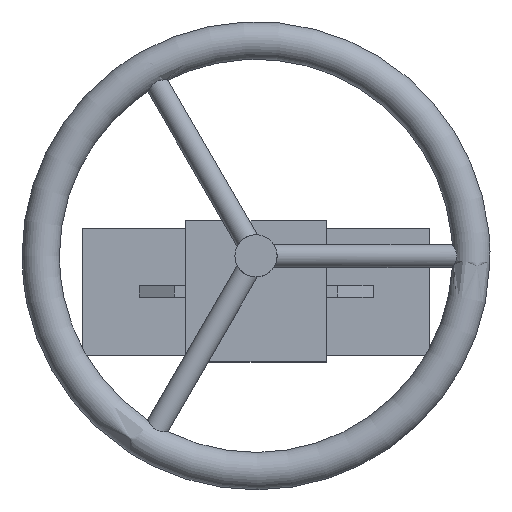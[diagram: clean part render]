
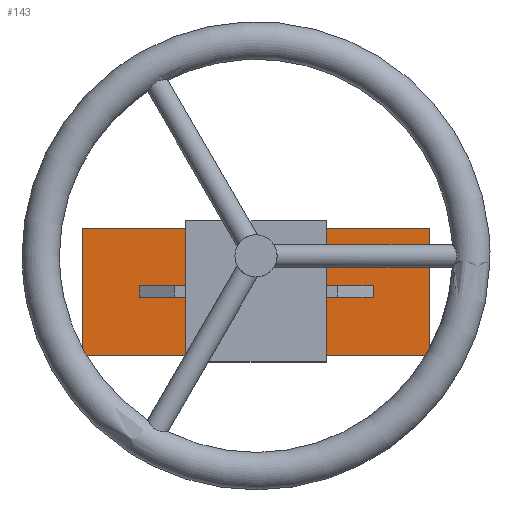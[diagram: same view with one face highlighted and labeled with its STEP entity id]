
A CAD part, top view. The second image highlights one B-rep face of the part: STEP entity #143.
In plain terms, the highlighted planar face has unit normal (0, 0, 1).
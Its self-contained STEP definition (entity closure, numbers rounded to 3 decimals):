
#143=ADVANCED_FACE('',(#968,#970,#972),#974,.T.);
#968=FACE_BOUND('',#969,.T.);
#969=EDGE_LOOP('',(#1689,#1690,#1691,#1692,#1693,#1694,#1695,#1696));
#970=FACE_BOUND('',#971,.T.);
#971=EDGE_LOOP('',(#1697,#1698,#1699,#1700));
#972=FACE_BOUND('',#973,.T.);
#973=EDGE_LOOP('',(#1701));
#974=PLANE('',#975);
#975=AXIS2_PLACEMENT_3D('',#976,#977,#978);
#976=CARTESIAN_POINT('',(0.,0.,120.));
#977=DIRECTION('',(0.,0.,1.));
#978=DIRECTION('',(1.,0.,0.));
#1689=ORIENTED_EDGE('',*,*,#2119,.F.);
#1690=ORIENTED_EDGE('',*,*,#2120,.T.);
#1691=ORIENTED_EDGE('',*,*,#2121,.T.);
#1692=ORIENTED_EDGE('',*,*,#2122,.T.);
#1693=ORIENTED_EDGE('',*,*,#2123,.F.);
#1694=ORIENTED_EDGE('',*,*,#2124,.T.);
#1695=ORIENTED_EDGE('',*,*,#2125,.T.);
#1696=ORIENTED_EDGE('',*,*,#2126,.T.);
#1697=ORIENTED_EDGE('',*,*,#2127,.F.);
#1698=ORIENTED_EDGE('',*,*,#2109,.F.);
#1699=ORIENTED_EDGE('',*,*,#2128,.F.);
#1700=ORIENTED_EDGE('',*,*,#2085,.F.);
#1701=ORIENTED_EDGE('',*,*,#2102,.F.);
#2085=EDGE_CURVE('',#2310,#2312,#2313,.T.);
#2102=EDGE_CURVE('',#2343,#2343,#2344,.F.);
#2109=EDGE_CURVE('',#2354,#2356,#2357,.F.);
#2119=EDGE_CURVE('',#2371,#2372,#2373,.T.);
#2120=EDGE_CURVE('',#2371,#2374,#2375,.T.);
#2121=EDGE_CURVE('',#2374,#2376,#2377,.T.);
#2122=EDGE_CURVE('',#2376,#2378,#2379,.T.);
#2123=EDGE_CURVE('',#2380,#2378,#2381,.T.);
#2124=EDGE_CURVE('',#2380,#2382,#2383,.T.);
#2125=EDGE_CURVE('',#2382,#2384,#2385,.T.);
#2126=EDGE_CURVE('',#2384,#2372,#2386,.T.);
#2127=EDGE_CURVE('',#2356,#2310,#2387,.T.);
#2128=EDGE_CURVE('',#2312,#2354,#2388,.T.);
#2310=VERTEX_POINT('',#2696);
#2312=VERTEX_POINT('',#2700);
#2313=LINE('',#2701,#2702);
#2343=VERTEX_POINT('',#2768);
#2344=CIRCLE('',#2769,9.);
#2354=VERTEX_POINT('',#2792);
#2356=VERTEX_POINT('',#2796);
#2357=LINE('',#2797,#2798);
#2371=VERTEX_POINT('',#2831);
#2372=VERTEX_POINT('',#2832);
#2373=LINE('',#2833,#2834);
#2374=VERTEX_POINT('',#2836);
#2375=LINE('',#2837,#2838);
#2376=VERTEX_POINT('',#2840);
#2377=LINE('',#2841,#2842);
#2378=VERTEX_POINT('',#2844);
#2379=LINE('',#2845,#2846);
#2380=VERTEX_POINT('',#2848);
#2381=LINE('',#2849,#2850);
#2382=VERTEX_POINT('',#2852);
#2383=LINE('',#2853,#2854);
#2384=VERTEX_POINT('',#2856);
#2385=LINE('',#2857,#2858);
#2386=LINE('',#2860,#2861);
#2387=LINE('',#2863,#2864);
#2388=LINE('',#2866,#2867);
#2696=CARTESIAN_POINT('',(-50.,-2.5,120.));
#2700=CARTESIAN_POINT('',(50.,-2.5,120.));
#2701=CARTESIAN_POINT('',(-50.,-2.5,120.));
#2702=VECTOR('',#2703,1.);
#2703=DIRECTION('',(1.,0.,0.));
#2768=CARTESIAN_POINT('',(0.,24.,120.));
#2769=AXIS2_PLACEMENT_3D('',#2770,#2771,#2772);
#2770=CARTESIAN_POINT('',(0.,15.,120.));
#2771=DIRECTION('',(0.,-0.,-1.));
#2772=DIRECTION('',(0.,1.,0.));
#2792=CARTESIAN_POINT('',(50.,2.5,120.));
#2796=CARTESIAN_POINT('',(-50.,2.5,120.));
#2797=CARTESIAN_POINT('',(-50.,2.5,120.));
#2798=VECTOR('',#2799,1.);
#2799=DIRECTION('',(1.,0.,0.));
#2831=CARTESIAN_POINT('',(30.,-27.,120.));
#2832=CARTESIAN_POINT('',(-30.,-27.,120.));
#2833=CARTESIAN_POINT('',(30.,-27.,120.));
#2834=VECTOR('',#2835,1.);
#2835=DIRECTION('',(-1.,0.,0.));
#2836=CARTESIAN_POINT('',(74.,-27.,120.));
#2837=CARTESIAN_POINT('',(30.,-27.,120.));
#2838=VECTOR('',#2839,1.);
#2839=DIRECTION('',(1.,0.,0.));
#2840=CARTESIAN_POINT('',(74.,27.,120.));
#2841=CARTESIAN_POINT('',(74.,-27.,120.));
#2842=VECTOR('',#2843,1.);
#2843=DIRECTION('',(0.,1.,0.));
#2844=CARTESIAN_POINT('',(30.,27.,120.));
#2845=CARTESIAN_POINT('',(74.,27.,120.));
#2846=VECTOR('',#2847,1.);
#2847=DIRECTION('',(-1.,0.,0.));
#2848=CARTESIAN_POINT('',(-30.,27.,120.));
#2849=CARTESIAN_POINT('',(-30.,27.,120.));
#2850=VECTOR('',#2851,1.);
#2851=DIRECTION('',(1.,0.,0.));
#2852=CARTESIAN_POINT('',(-74.,27.,120.));
#2853=CARTESIAN_POINT('',(-30.,27.,120.));
#2854=VECTOR('',#2855,1.);
#2855=DIRECTION('',(-1.,0.,0.));
#2856=CARTESIAN_POINT('',(-74.,-27.,120.));
#2857=CARTESIAN_POINT('',(-74.,27.,120.));
#2858=VECTOR('',#2859,1.);
#2859=DIRECTION('',(0.,-1.,0.));
#2860=CARTESIAN_POINT('',(-74.,-27.,120.));
#2861=VECTOR('',#2862,1.);
#2862=DIRECTION('',(1.,0.,0.));
#2863=CARTESIAN_POINT('',(-50.,2.5,120.));
#2864=VECTOR('',#2865,1.);
#2865=DIRECTION('',(0.,-1.,0.));
#2866=CARTESIAN_POINT('',(50.,-2.5,120.));
#2867=VECTOR('',#2868,1.);
#2868=DIRECTION('',(0.,1.,0.));
